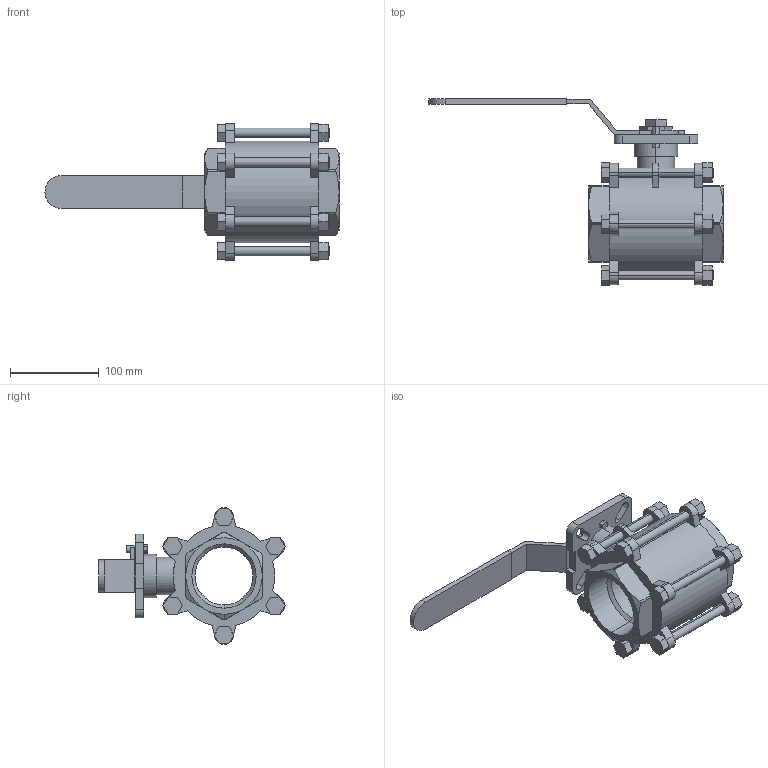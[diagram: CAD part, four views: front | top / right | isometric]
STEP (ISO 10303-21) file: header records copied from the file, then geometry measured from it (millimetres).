
FILE_DESCRIPTION (( 'STEP AP203' ), '1' );
FILE_NAME ('C3.622I065IFVPB0.STEP', '2018-10-12T14:39:25', ( '' ), ( '' ), 'SwSTEP 2.0', 'SolidWorks 2014', '' );
FILE_SCHEMA (( 'CONFIG_CONTROL_DESIGN' ));
Length unit declared in the file: millimetre
Products named in the file (1): C3.622I065IFVPB0
Bounding box: 330.5 x 209.06 x 154 mm (x, y, z)
Volume: 1147417.8 mm3; surface area: 184232.7 mm2
Topology: 1 solids, 1 shells, 413 faces, 1062 edges, 669 vertices
Faces by surface type: plane 300, cylinder 95, cone 18
Entity records: 12740 total; most frequent: CARTESIAN_POINT 2421, DIRECTION 2139, ORIENTED_EDGE 2124, EDGE_CURVE 1062, LINE 753, VECTOR 753, AXIS2_PLACEMENT_3D 693, VERTEX_POINT 669
